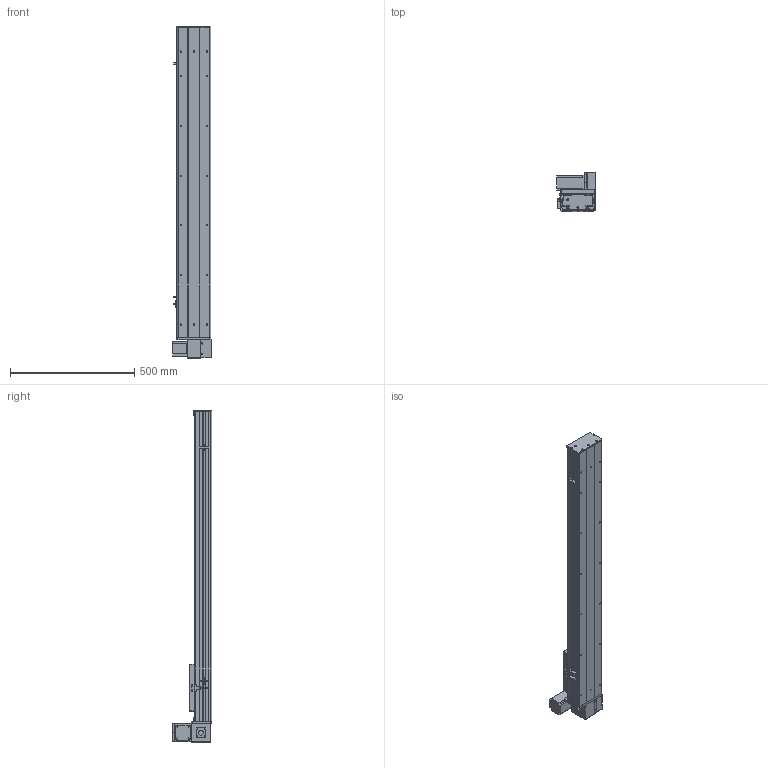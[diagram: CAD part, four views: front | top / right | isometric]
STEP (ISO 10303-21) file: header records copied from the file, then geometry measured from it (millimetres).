
FILE_DESCRIPTION (( 'STEP AP203' ), '1' );
FILE_NAME ('Y135CB-D90-S950-UL-P400W.STEP', '2020-02-18T07:19:21', ( '微软用户' ), ( '微软中国' ), 'SwSTEP 2.0', 'SolidWorks 2017', '' );
FILE_SCHEMA (( 'CONFIG_CONTROL_DESIGN' ));
Length unit declared in the file: millimetre
Products named in the file (18): Y135CB-耜裔; C-雄赽釱--; 0B-萇儂楊擘啣; Y10B-耜蚾蟀諉啣----; san松下电机400不带刹车----; 00B-俋欶BM--; 5CB --掛极耜裔啣-; Y10B--々湍喘謫眊--666; C-詩湍揤踡え-陔; Y135CB-D90-S950-UL-P400W; 135CB--詩湍-CE; 135CB---遴掛极.-; Y100-135俋离換覜ん--; 35CB---喘謫眊楊擘啣; Y135C-陔俋离換覜結え-; 0B-埴倛裔啣; 5C--俋欶; 0B-源倛裔啣
Assembly tree (21 placements, depth 2):
  Y135CB-D90-S950-UL-P400W
    Y135CB-耜裔
    135CB---遴掛极.-
    35CB---喘謫眊楊擘啣
    0B-埴倛裔啣
    0B-源倛裔啣
    0B-萇儂楊擘啣
    san松下电机400不带刹车----
    5CB --掛极耜裔啣-  x2
    C-詩湍揤踡え-陔  x2
    135CB--詩湍-CE
    Y100-135俋离換覜ん--  x3
    Y135C-陔俋离換覜結え-
    5C--俋欶
    C-雄赽釱--
    Y10B-耜蚾蟀諉啣----
    00B-俋欶BM--
    Y10B--々湍喘謫眊--666
Bounding box: 157 x 158.7 x 1338 mm (x, y, z)
Volume: 4256550.2 mm3; surface area: 1664119.8 mm2
Topology: 21 solids, 21 shells, 945 faces, 2527 edges, 1674 vertices
Faces by surface type: cylinder 473, plane 456, cone 16
Entity records: 29349 total; most frequent: DIRECTION 4875, CARTESIAN_POINT 4812, ORIENTED_EDGE 4530, EDGE_CURVE 2265, AXIS2_PLACEMENT_3D 1777, VERTEX_POINT 1502, LINE 1321, VECTOR 1321
